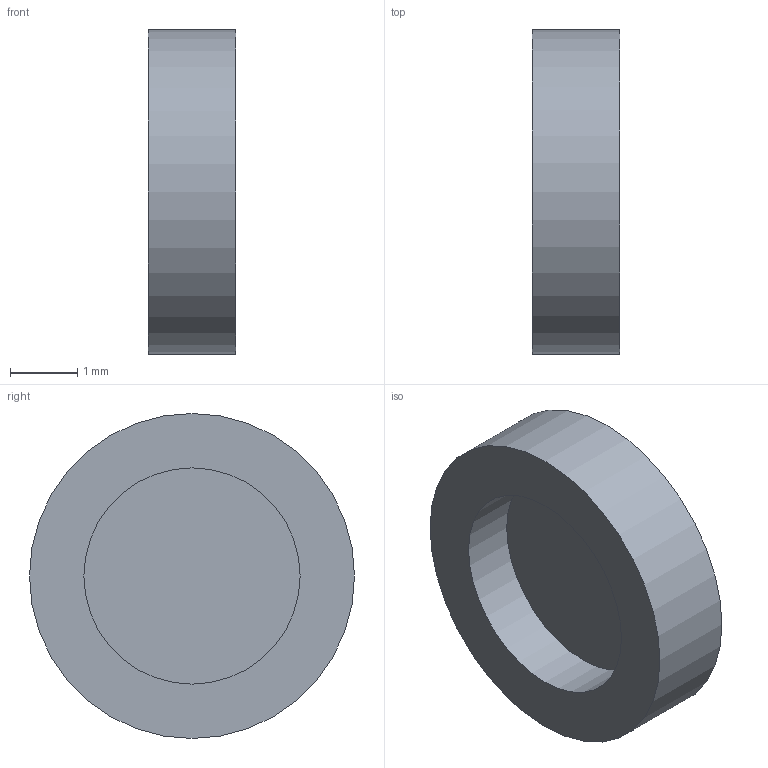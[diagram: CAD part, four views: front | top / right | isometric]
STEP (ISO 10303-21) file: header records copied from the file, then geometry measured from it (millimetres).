
FILE_DESCRIPTION(/* description */ ('STEP AP242 Edition 2','CAx-IF Rec.Pracs.---Representation and Presentation of Product Manufacturing Information (PMI)---4.0---2014-10-13','CAx-IF Rec.Pracs.---3D Tessellated Geometry---0.4---2014-09-14','2;1','CAx-IF Rec.Pracs.---User Defined Attributes---1.5---2016-08-15'),/* implementation_level */ '2;1');
FILE_NAME(/* name */ 'Main - Cap2',/* time_stamp */ '2026-06-25T16:15:29Z',/* author */ (''),/* organization */ (''),/* preprocessor_version */ 'ST-DEVELOPER v20',/* originating_system */ 'ONSHAPE BY PTC INC, 1.216',/* authorisation */ ' ');
FILE_SCHEMA (('AP242_MANAGED_MODEL_BASED_3D_ENGINEERING_MIM_LF { 1 0 10303 442 3 1 4 }'));
Length unit declared in the file: metre
Products named in the file (1): Cap2
Bounding box: 1.3 x 4.82 x 4.82 mm (x, y, z)
Volume: 17.3 mm3; surface area: 64.2 mm2
Topology: 1 solids, 1 shells, 5 faces, 6 edges, 4 vertices
Faces by surface type: plane 3, cylinder 2
Full cylindrical faces by diameter (mm): 3.206 x1, 4.819 x1
Entity records: 116 total; most frequent: DIRECTION 20, CARTESIAN_POINT 14, AXIS2_PLACEMENT_3D 10, ORIENTED_EDGE 8, EDGE_LOOP 8, FACE_BOUND 8, ADVANCED_FACE 5, EDGE_CURVE 4
